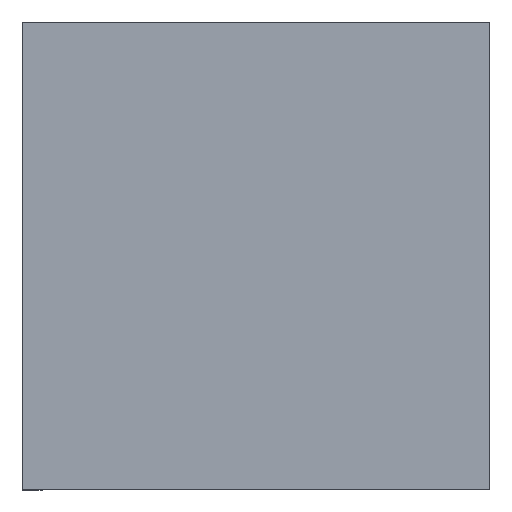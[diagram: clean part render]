
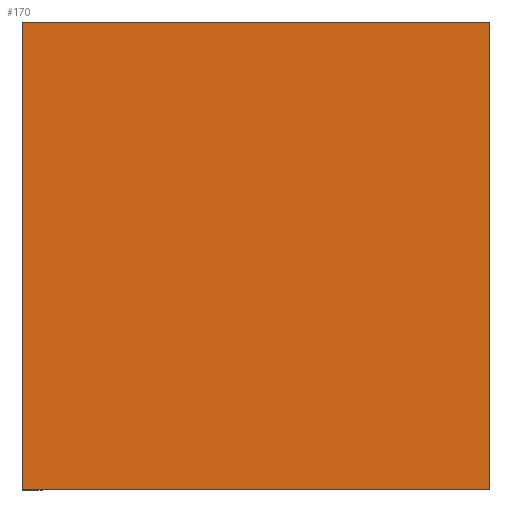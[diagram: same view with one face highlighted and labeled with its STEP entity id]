
A CAD part, top view. The second image highlights one B-rep face of the part: STEP entity #170.
In plain terms, the highlighted planar face has unit normal (0, 0, 1).
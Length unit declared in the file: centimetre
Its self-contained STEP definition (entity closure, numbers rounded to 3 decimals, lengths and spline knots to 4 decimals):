
#8 = VERTEX_POINT ( 'NONE', #980 ) ;
#39 = DIRECTION ( 'NONE',  ( 1., 0., 0. ) ) ;
#64 = ORIENTED_EDGE ( 'NONE', *, *, #790, .T. ) ;
#89 = VECTOR ( 'NONE', #39, 100. ) ;
#145 = LINE ( 'NONE', #390, #1060 ) ;
#160 = LINE ( 'NONE', #326, #459 ) ;
#170 = ADVANCED_FACE ( 'NONE', ( #642 ), #815, .T. ) ;
#242 = ORIENTED_EDGE ( 'NONE', *, *, #492, .T. ) ;
#264 = VERTEX_POINT ( 'NONE', #1003 ) ;
#279 = CARTESIAN_POINT ( 'NONE',  ( 0., 0., 1000. ) ) ;
#326 = CARTESIAN_POINT ( 'NONE',  ( 0., 1000., 1000. ) ) ;
#369 = CARTESIAN_POINT ( 'NONE',  ( 1000., 1000., 1000. ) ) ;
#390 = CARTESIAN_POINT ( 'NONE',  ( 0., 1000., 1000. ) ) ;
#391 = EDGE_CURVE ( 'NONE', #956, #264, #145, .T. ) ;
#459 = VECTOR ( 'NONE', #1107, 100. ) ;
#469 = LINE ( 'NONE', #279, #89 ) ;
#475 = DIRECTION ( 'NONE',  ( 0., 1., 0. ) ) ;
#492 = EDGE_CURVE ( 'NONE', #8, #1026, #904, .T. ) ;
#530 = VECTOR ( 'NONE', #475, 100. ) ;
#556 = EDGE_CURVE ( 'NONE', #264, #8, #469, .T. ) ;
#571 = AXIS2_PLACEMENT_3D ( 'NONE', #983, #1072, #714 ) ;
#641 = CARTESIAN_POINT ( 'NONE',  ( 1000., 1000., 1000. ) ) ;
#642 = FACE_OUTER_BOUND ( 'NONE', #1111, .T. ) ;
#696 = ORIENTED_EDGE ( 'NONE', *, *, #391, .T. ) ;
#714 = DIRECTION ( 'NONE',  ( 1., 0., 0. ) ) ;
#790 = EDGE_CURVE ( 'NONE', #1026, #956, #160, .T. ) ;
#815 = PLANE ( 'NONE',  #571 ) ;
#848 = CARTESIAN_POINT ( 'NONE',  ( 0., 1000., 1000. ) ) ;
#904 = LINE ( 'NONE', #641, #530 ) ;
#956 = VERTEX_POINT ( 'NONE', #848 ) ;
#980 = CARTESIAN_POINT ( 'NONE',  ( 1000., 0., 1000. ) ) ;
#983 = CARTESIAN_POINT ( 'NONE',  ( 0., 0., 1000. ) ) ;
#1003 = CARTESIAN_POINT ( 'NONE',  ( 0., 0., 1000. ) ) ;
#1006 = DIRECTION ( 'NONE',  ( 0., -1., 0. ) ) ;
#1026 = VERTEX_POINT ( 'NONE', #369 ) ;
#1060 = VECTOR ( 'NONE', #1006, 100. ) ;
#1072 = DIRECTION ( 'NONE',  ( 0., 0., 1. ) ) ;
#1097 = ORIENTED_EDGE ( 'NONE', *, *, #556, .T. ) ;
#1107 = DIRECTION ( 'NONE',  ( -1., 0., 0. ) ) ;
#1111 = EDGE_LOOP ( 'NONE', ( #696, #1097, #242, #64 ) ) ;
